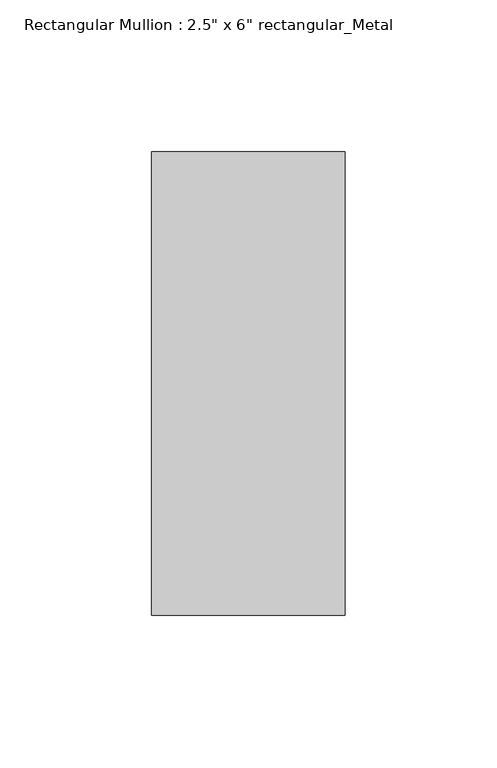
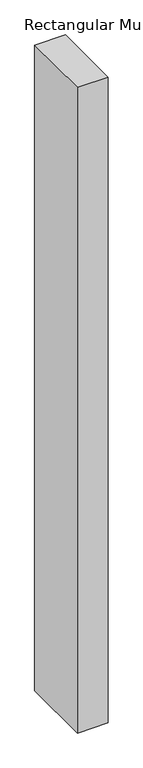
"""IFC4 building model written with IfcOpenShell, lengths in millimetres: member geometry."""

from ifc_helpers import new_model, si_unit, frame, origin, place, context, project, spatial, polyline, outline, extrude, source, transform, mapped, element, save


def member_03c349ec(model_context):
    return source(origin(), model_context, "Body", "SweptSolid", [
        extrude(outline(polyline([(0.0, 76.2), (0.0, -76.2), (-63.5, -76.2), (-63.5, 76.2), (0.0, 76.2)])), frame((0.0, 0.0, -1409.7), z_axis=(0.0, 0.0, 1.0), x_axis=(1.0, 0.0, 0.0)), (0.0, 0.0, 1.0), 1409.7),
    ])


if __name__ == "__main__":
    model = new_model("IFC4")
    model_context = context("Model", 3, world=origin())
    ifc_project = project(units=[si_unit("LENGTHUNIT", "METRE", prefix="MILLI")], contexts=[model_context])
    site = spatial("IfcSite", under=ifc_project)
    building = spatial("IfcBuilding", under=site)
    placement = place(None, origin())
    member_shape = member_03c349ec(model_context)
    element("IfcMember", 1, ObjectType="Rectangular Mullion : 2.5\" x 6\" rectangular_Metal", at=placement, inside=building, context=model_context, shape_type="MappedRepresentation", body=[
        mapped(member_shape, transform((0.0, 0.0, 0.0), x_axis=(1.0, 0.0, 0.0), y_axis=(0.0, 1.0, 0.0), z_axis=(0.0, 0.0, 1.0))),
    ])
    save(model, "model.ifc")
